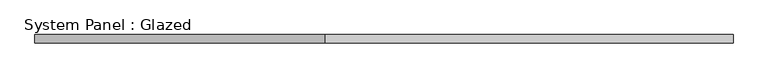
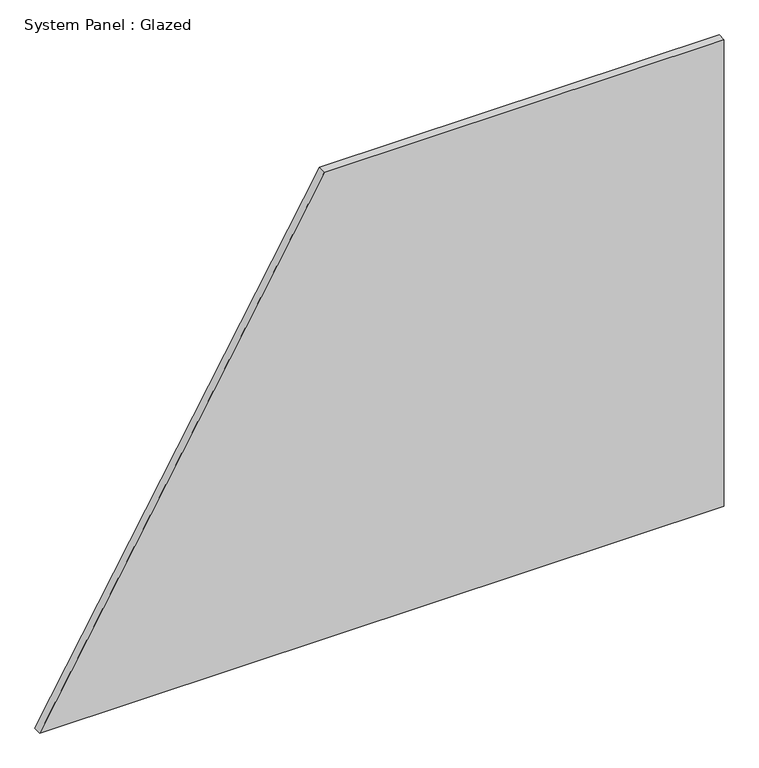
"""IFC4 building model written with IfcOpenShell, lengths in millimetres: plate geometry, System Panel : Glazed."""

from ifc_helpers import new_model, si_unit, frame, origin, place, context, project, spatial, polyline, outline, extrude, source, transform, mapped, element, save


def system_panel_glazed_495bd35e(model_context):
    return source(origin(), model_context, "Body", "SweptSolid", [
        extrude(outline(polyline([(0.0, -1057.5293219), (0.0, 1057.5293219), (1524.0, 1057.5293219), (1524.0, -177.6475117), (0.0, -1057.5293219)])), frame((0.0, 19.05, 0.0), z_axis=(0.0, 1.0, 0.0), x_axis=(0.0, 0.0, 1.0)), (0.0, 0.0, 1.0), 25.4),
    ])


if __name__ == "__main__":
    model = new_model("IFC4")
    model_context = context("Model", 3, world=origin())
    ifc_project = project(units=[si_unit("LENGTHUNIT", "METRE", prefix="MILLI")], contexts=[model_context])
    site = spatial("IfcSite", under=ifc_project)
    building = spatial("IfcBuilding", under=site)
    placement = place(None, origin())
    system_panel_glazed_shape = system_panel_glazed_495bd35e(model_context)
    element("IfcPlate", 1, ObjectType="System Panel : Glazed", at=placement, inside=building, context=model_context, shape_type="MappedRepresentation", body=[
        mapped(system_panel_glazed_shape, transform((0.0, 0.0, 0.0), x_axis=(1.0, 0.0, 0.0), y_axis=(0.0, 1.0, 0.0), z_axis=(0.0, 0.0, 1.0))),
    ])
    save(model, "model.ifc")
